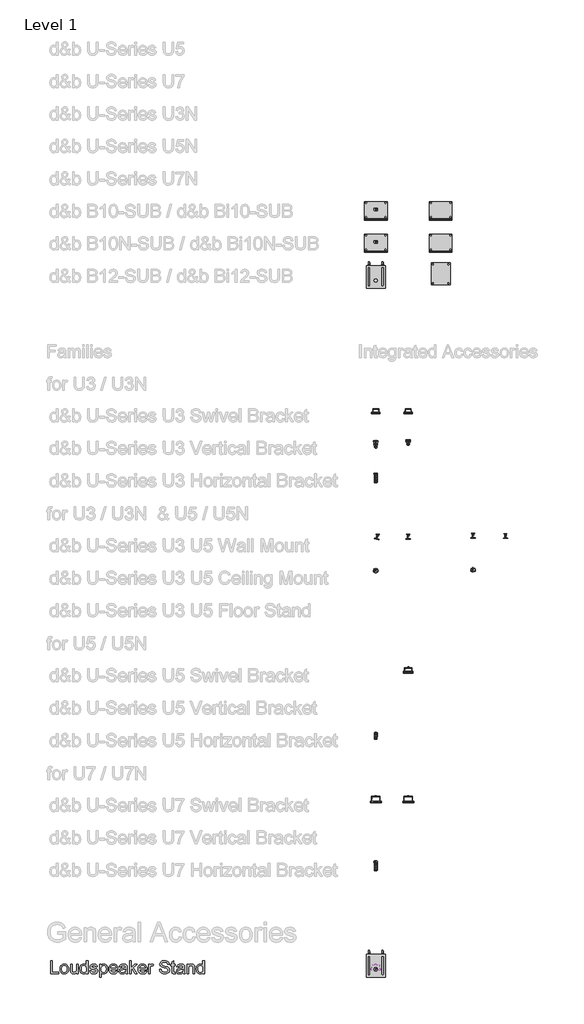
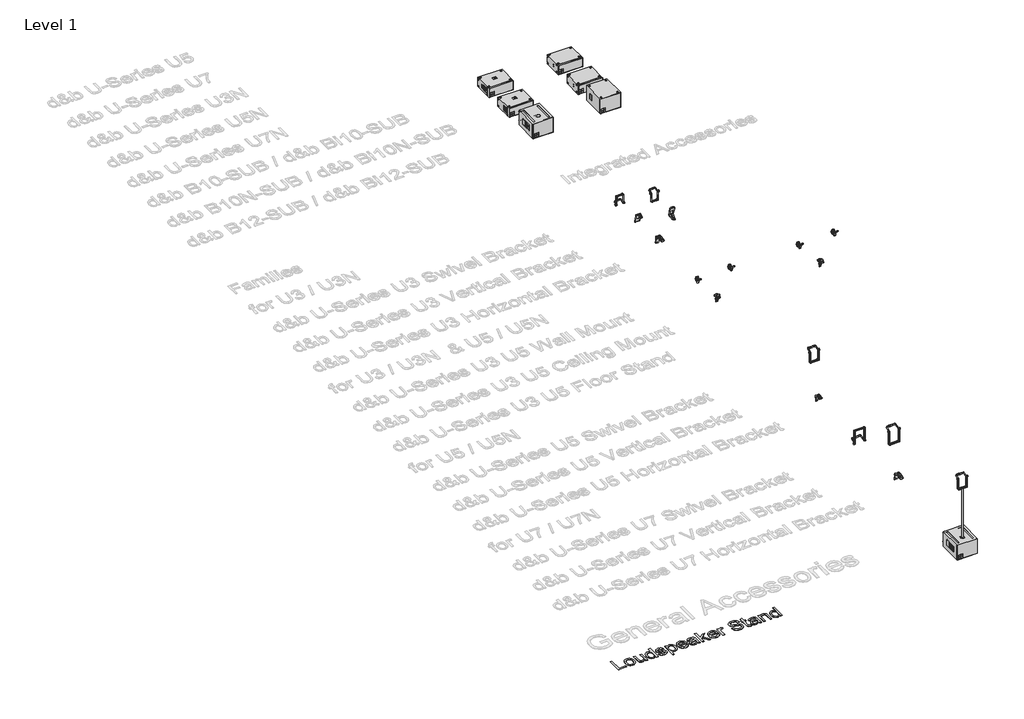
# One storey, part 1 of 29: 26 proxies.
"""IFC4 building model written with IfcOpenShell, lengths in millimetres."""

from ifc_helpers import new_model, si_unit, origin, origin_with_axes, place, context, project, spatial, polyline, outline, extrude, transform, mapped, element, save
from components import communication_devices_6d1422ba, communication_devices_ca37ca75, communication_devices_d0d5bee1, communication_devices_85ac5e9e, communication_devices_4919dec1, communication_devices_57c54264, communication_devices_0d8d8cf8, communication_devices_1533c05a, communication_devices_1f7fb13f, communication_devices_76a7964f, communication_devices_b4fd94f2, communication_devices_d837c37c, communication_devices_72063a0f, communication_devices_f46f4e43, communication_devices_39ca2ad1, communication_devices_53e6d59a, b10_sub_546336d0, b10_sub_703a699e, b10n_sub_55d3283e, b10n_sub_f161659a, b12_sub_ed2cee65, b12_sub_e7cbb8c9, b12_sub_46f5f9e7, bi10_sub_41919346, bi10n_sub_a82419cd, bi10n_sub_36906f2f, bi12_sub_8aa10a98

model = new_model("IFC4")

# Units and contexts
model_context = context("Model", 3, world=origin())
ifc_project = project(units=[si_unit("LENGTHUNIT", "METRE", prefix="MILLI")], contexts=[model_context])

# Site, building, storey
site = spatial("IfcSite", under=ifc_project)
building = spatial("IfcBuilding", under=site)
storey = spatial("IfcBuildingStorey", under=building, Name="Level 1", Elevation=0.0)

# Proxies
placement = place(None, origin())
communication_devices_shape = communication_devices_6d1422ba(model_context)
element("IfcBuildingElementProxy", 1, Name="d&b U-Series U3 Vertical Bracket : d&b U-Series U3 Vertical Bracket", ObjectType="d&b U-Series U3 Vertical Bracket : d&b U-Series U3 Vertical Bracket", at=placement, inside=storey, context=model_context, shape_type="MappedRepresentation", body=[
    mapped(communication_devices_shape, transform((-10941.6434304, 3446.1969765, 250.0), x_axis=(1.0, 0.0, 0.0), y_axis=(0.0, 1.0, 0.0), z_axis=(0.0, 0.0, 1.0))),
])
communication_devices_2_shape = communication_devices_ca37ca75(model_context)
element("IfcBuildingElementProxy", 2, Name="Loudspeaker Stand : Loudspeaker Stand", ObjectType="Loudspeaker Stand : Loudspeaker Stand", at=placement, inside=storey, context=model_context, shape_type="MappedRepresentation", body=[
    mapped(communication_devices_2_shape, transform((-10941.6434304, -12696.0762085, 455.0), x_axis=(1.0, 0.0, 0.0), y_axis=(0.0, 1.0, 0.0), z_axis=(0.0, 0.0, 1.0))),
])
communication_devices_3_shape = communication_devices_d0d5bee1(model_context)
element("IfcBuildingElementProxy", 3, Name="d&b U-Series U3 Vertical Bracket : d&b U-Series U3 Vertical Bracket", ObjectType="d&b U-Series U3 Vertical Bracket : d&b U-Series U3 Vertical Bracket", at=placement, inside=storey, context=model_context, shape_type="MappedRepresentation", body=[
    mapped(communication_devices_3_shape, transform((-9941.6434304, 3446.1969765, 250.0), x_axis=(1.0, 0.0, 0.0), y_axis=(0.0, 1.0, 0.0), z_axis=(0.0, 0.0, 1.0))),
])
communication_devices_4_shape = communication_devices_85ac5e9e(model_context)
element("IfcBuildingElementProxy", 4, Name="d&b U-Series U7 Horizonzal Bracket : d&b U-Series U7 Horizontal Bracket", ObjectType="d&b U-Series U7 Horizonzal Bracket : d&b U-Series U7 Horizontal Bracket", at=placement, inside=storey, context=model_context, shape_type="MappedRepresentation", body=[
    mapped(communication_devices_4_shape, transform((-10941.6434304, -9565.74754, 248.0447678), x_axis=(0.0, 0.25881904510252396, -0.9659258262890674), y_axis=(0.0, -0.9659258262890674, -0.25881904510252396), z_axis=(-1.0, 0.0, 0.0))),
])
communication_devices_5_shape = communication_devices_4919dec1(model_context)
communication_devices_6_shape = communication_devices_57c54264(model_context)
element("IfcBuildingElementProxy", 5, Name="d&b U-Series U3 U5 Wall Mount : d&b U-Series U3 U5 Wall Mount", ObjectType="d&b U-Series U3 U5 Wall Mount : d&b U-Series U3 U5 Wall Mount", at=placement, inside=storey, context=model_context, shape_type="MappedRepresentation", body=[
    mapped(communication_devices_5_shape, transform((-7941.6432859, 586.9561395, 275.6129964), x_axis=(1.0, 0.0, 0.0), y_axis=(0.0, 0.17364817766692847, -0.9848077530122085), z_axis=(0.0, 0.9848077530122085, 0.17364817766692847))),
    mapped(communication_devices_6_shape, transform((-7941.6432859, 586.9561395, 275.6129964), x_axis=(1.0, 0.0, 0.0), y_axis=(0.0, 0.17364817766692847, -0.9848077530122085), z_axis=(0.0, 0.9848077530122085, 0.17364817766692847))),
])
element("IfcBuildingElementProxy", 6, Name="d&b U-Series U3 U5 Wall Mount : d&b U-Series U3 U5 Wall Mount", ObjectType="d&b U-Series U3 U5 Wall Mount : d&b U-Series U3 U5 Wall Mount", at=placement, inside=storey, context=model_context, shape_type="MappedRepresentation", body=[
    mapped(communication_devices_5_shape, transform((-9941.6433189, 555.0427279, 312.6336851), x_axis=(1.0, 0.0, 0.0), y_axis=(0.0, 0.17364817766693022, -0.9848077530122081), z_axis=(0.0, 0.9848077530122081, 0.17364817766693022))),
    mapped(communication_devices_6_shape, transform((-9941.6433189, 555.0427279, 312.6336851), x_axis=(1.0, 0.0, 0.0), y_axis=(0.0, 0.17364817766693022, -0.9848077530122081), z_axis=(0.0, 0.9848077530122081, 0.17364817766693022))),
])
element("IfcBuildingElementProxy", 7, Name="d&b U-Series U3 U5 Wall Mount : d&b U-Series U3 U5 Wall Mount", ObjectType="d&b U-Series U3 U5 Wall Mount : d&b U-Series U3 U5 Wall Mount", at=placement, inside=storey, context=model_context, shape_type="MappedRepresentation", body=[
    mapped(communication_devices_5_shape, transform((-6941.6433189, 579.6628716, 316.9751741), x_axis=(1.0, 0.0, 0.0), y_axis=(0.0, 0.1736481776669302, -0.9848077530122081), z_axis=(0.0, 0.9848077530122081, 0.1736481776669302))),
    mapped(communication_devices_6_shape, transform((-6941.6433189, 579.6628716, 316.9751741), x_axis=(1.0, 0.0, 0.0), y_axis=(0.0, 0.1736481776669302, -0.9848077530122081), z_axis=(0.0, 0.9848077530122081, 0.1736481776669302))),
])
communication_devices_7_shape = communication_devices_0d8d8cf8(model_context)
element("IfcBuildingElementProxy", 8, Name="d&b U-Series U3 Horizonzal Bracket : d&b U-Series U3 Horizontal Bracket", ObjectType="d&b U-Series U3 Horizonzal Bracket : d&b U-Series U3 Horizontal Bracket", at=placement, inside=storey, context=model_context, shape_type="MappedRepresentation", body=[
    mapped(communication_devices_7_shape, transform((-10941.6434304, 2445.1371749, 250.6453621), x_axis=(0.0, 0.17364817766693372, -0.9848077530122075), y_axis=(0.0, -0.9848077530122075, -0.17364817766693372), z_axis=(-1.0, 0.0, 0.0))),
])
communication_devices_8_shape = communication_devices_1533c05a(model_context)
element("IfcBuildingElementProxy", 9, Name="d&b U-Series U5 Swivel Bracket : d&b U-Series U5 Swivel Bracket", ObjectType="d&b U-Series U5 Swivel Bracket : d&b U-Series U5 Swivel Bracket", at=placement, inside=storey, context=model_context, shape_type="MappedRepresentation", body=[
    mapped(communication_devices_8_shape, transform((-9941.6434304, -3546.8030235, 250.0), x_axis=(1.0, 0.0, 0.0), y_axis=(0.0, 1.0, 0.0), z_axis=(0.0, 0.0, 1.0))),
])
element("IfcBuildingElementProxy", 10, Name="d&b U-Series U5 Swivel Bracket : d&b U-Series U5 Swivel Bracket", ObjectType="d&b U-Series U5 Swivel Bracket : d&b U-Series U5 Swivel Bracket", at=placement, inside=storey, context=model_context, shape_type="MappedRepresentation", body=[
    mapped(communication_devices_8_shape, transform((-10941.6434304, -12696.0762085, 2274.0), x_axis=(1.0, 0.0, 0.0), y_axis=(0.0, 1.0, 0.0), z_axis=(0.0, 0.0, 1.0))),
])
communication_devices_9_shape = communication_devices_1f7fb13f(model_context)
communication_devices_10_shape = communication_devices_76a7964f(model_context)
element("IfcBuildingElementProxy", 11, Name="d&b U-Series U7 Swivel Bracket : d&b U-Series U7 Swivel Bracket", ObjectType="d&b U-Series U7 Swivel Bracket : d&b U-Series U7 Swivel Bracket", at=placement, inside=storey, context=model_context, shape_type="MappedRepresentation", body=[
    mapped(communication_devices_9_shape, transform((-10941.6434304, -7546.8030235, 250.0), x_axis=(1.0, 0.0, 0.0), y_axis=(0.0, 1.0, 0.0), z_axis=(0.0, 0.0, 1.0))),
    mapped(communication_devices_10_shape, transform((-10941.6434304, -7546.8030235, 250.0), x_axis=(1.0, 0.0, 0.0), y_axis=(0.0, 1.0, 0.0), z_axis=(0.0, 0.0, 1.0))),
])
communication_devices_11_shape = communication_devices_b4fd94f2(model_context)
element("IfcBuildingElementProxy", 12, Name="d&b U-Series U7 Swivel Bracket : d&b U-Series U7 Swivel Bracket", ObjectType="d&b U-Series U7 Swivel Bracket : d&b U-Series U7 Swivel Bracket", at=placement, inside=storey, context=model_context, shape_type="MappedRepresentation", body=[
    mapped(communication_devices_11_shape, transform((-9941.6434304, -7546.8030235, 250.0), x_axis=(1.0, 0.0, 0.0), y_axis=(0.0, 1.0, 0.0), z_axis=(0.0, 0.0, 1.0))),
])
communication_devices_12_shape = communication_devices_d837c37c(model_context)
element("IfcBuildingElementProxy", 13, Name="d&b U-Series U3 U5 Wall Mount : d&b U-Series U3 U5 Wall Mount", ObjectType="d&b U-Series U3 U5 Wall Mount : d&b U-Series U3 U5 Wall Mount", at=placement, inside=storey, context=model_context, shape_type="MappedRepresentation", body=[
    mapped(communication_devices_12_shape, transform((-10909.9380973, 558.2252538, 270.5470793), x_axis=(0.9659258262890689, -0.25488700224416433, -0.044943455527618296), y_axis=(0.0, 0.17364817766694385, -0.9848077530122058), z_axis=(0.25881904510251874, 0.9512512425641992, 0.1677312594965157))),
    mapped(communication_devices_6_shape, transform((-10909.9380973, 558.2252538, 270.5470793), x_axis=(0.9659258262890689, -0.25488700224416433, -0.044943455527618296), y_axis=(0.0, 0.17364817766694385, -0.9848077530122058), z_axis=(0.25881904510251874, 0.9512512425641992, 0.1677312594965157))),
])
communication_devices_13_shape = communication_devices_72063a0f(model_context)
element("IfcBuildingElementProxy", 14, Name="d&b U-Series U3 Swivel Bracket : d&b U-Series U3 Swivel Bracket", ObjectType="d&b U-Series U3 Swivel Bracket : d&b U-Series U3 Swivel Bracket", at=placement, inside=storey, context=model_context, shape_type="MappedRepresentation", body=[
    mapped(communication_devices_13_shape, transform((-9941.6434304, 4444.1969765, 250.0), x_axis=(1.0, 0.0, 0.0), y_axis=(0.0, 1.0, 0.0), z_axis=(0.0, 0.0, 1.0))),
])
communication_devices_14_shape = communication_devices_f46f4e43(model_context)
element("IfcBuildingElementProxy", 15, Name="d&b U-Series U3 Swivel Bracket : d&b U-Series U3 Swivel Bracket", ObjectType="d&b U-Series U3 Swivel Bracket : d&b U-Series U3 Swivel Bracket", at=placement, inside=storey, context=model_context, shape_type="MappedRepresentation", body=[
    mapped(communication_devices_14_shape, transform((-10941.6434304, 4444.1969765, 250.0), x_axis=(1.0, 0.0, 0.0), y_axis=(0.0, 1.0, 0.0), z_axis=(0.0, 0.0, 1.0))),
])
communication_devices_15_shape = communication_devices_39ca2ad1(model_context)
element("IfcBuildingElementProxy", 16, Name="d&b U-Series U3 U5 Ceiling Mount : d&b U-Series U3 U5 Ceiling Mount", ObjectType="d&b U-Series U3 U5 Ceiling Mount : d&b U-Series U3 U5 Ceiling Mount", at=placement, inside=storey, context=model_context, shape_type="MappedRepresentation", body=[
    mapped(communication_devices_15_shape, transform((-7941.6433189, -426.6993266, 328.7445543), x_axis=(1.0, 0.0, 0.0), y_axis=(0.0, 0.2588190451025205, -0.9659258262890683), z_axis=(0.0, 0.9659258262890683, 0.2588190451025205))),
])
element("IfcBuildingElementProxy", 17, Name="d&b U-Series U3 U5 Ceiling Mount : d&b U-Series U3 U5 Ceiling Mount", ObjectType="d&b U-Series U3 U5 Ceiling Mount : d&b U-Series U3 U5 Ceiling Mount", at=placement, inside=storey, context=model_context, shape_type="MappedRepresentation", body=[
    mapped(communication_devices_15_shape, transform((-10941.6433189, -450.8474722, 322.2740782), x_axis=(1.0, 0.0, 0.0), y_axis=(0.0, 0.2588190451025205, -0.9659258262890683), z_axis=(0.0, 0.9659258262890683, 0.2588190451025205))),
])
communication_devices_16_shape = communication_devices_53e6d59a(model_context)
element("IfcBuildingElementProxy", 18, Name="d&b U-Series U5 Horizonzal Bracket : d&b U-Series U5 Horizontal Bracket", ObjectType="d&b U-Series U5 Horizonzal Bracket : d&b U-Series U5 Horizontal Bracket", at=placement, inside=storey, context=model_context, shape_type="MappedRepresentation", body=[
    mapped(communication_devices_16_shape, transform((-10941.6434304, -5530.2426312, 254.9865665), x_axis=(0.0, 0.1736481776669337, -0.9848077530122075), y_axis=(0.0, -0.9848077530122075, -0.1736481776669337), z_axis=(-1.0, 0.0, 0.0))),
])
element("IfcBuildingElementProxy", 19, Name="400mm Arial", ObjectType="400mm Arial", at=placement, inside=storey, context=model_context, shape_type="SweptSolid", body=[
    extrude(outline(polyline([(-20964.210541, -12835.6363385), (-20964.210541, -12433.8110979), (-20913.9823859, -12433.8110979), (-20913.9823859, -12785.4081834), (-20713.0697656, -12785.4081834), (-20713.0697656, -12835.6363385), (-20964.210541, -12835.6363385)])), origin_with_axes(), (0.0, 0.0, 1.0), 5.0),
    extrude(outline(polyline([(-20675.3986493, -12688.091133), (-20672.6824539, -12649.874325), (-20664.5338677, -12616.9427551), (-20650.9528907, -12589.2964232), (-20631.9395229, -12566.9353292), (-20612.7973964, -12552.6431137), (-20591.6687072, -12542.4343884), (-20568.5534552, -12536.3091531), (-20543.4516403, -12534.2674081), (-20515.7409291, -12536.7536772), (-20490.6850995, -12544.2124847), (-20468.2841517, -12556.6438304), (-20448.5380856, -12574.0477145), (-20432.4217885, -12595.8355256), (-20420.9101478, -12621.4186527), (-20414.0031633, -12650.7970957), (-20411.7008351, -12683.9708546), (-20415.7720626, -12734.7140445), (-20427.9857448, -12773.341654), (-20447.9862626, -12802.2694415), (-20475.4179967, -12823.9131656), (-20508.0000787, -12837.4144348), (-20543.4516403, -12841.9148579), (-20571.5670218, -12839.4377858), (-20596.8558433, -12832.0065695), (-20619.3181048, -12819.621209), (-20638.9538063, -12802.2817043), (-20654.8984251, -12780.282361), (-20666.2874385, -12753.9174846), (-20673.1208466, -12723.1870753), (-20675.3986493, -12688.091133)]), holes=[polyline([(-20625.1704942, -12687.9930311), (-20623.7173603, -12712.3560162), (-20619.3579587, -12733.450983), (-20612.0922893, -12751.2779313), (-20601.9203521, -12765.8368613), (-20589.5472543, -12777.146167), (-20575.6781031, -12785.2242424), (-20560.3128985, -12790.0710877), (-20543.4516403, -12791.6867028), (-20526.6762214, -12790.0618907), (-20511.3723304, -12785.1874542), (-20497.5399673, -12777.0633935), (-20485.1791323, -12765.6897085), (-20475.0071951, -12750.9866914), (-20467.7415257, -12732.8746345), (-20463.3821241, -12711.3535378), (-20461.9289902, -12686.4234013), (-20463.3913211, -12662.8329683), (-20467.7783139, -12642.2898246), (-20475.0899686, -12624.79397), (-20485.3262851, -12610.3454047), (-20497.7331054, -12599.036099), (-20511.5562714, -12590.9580235), (-20526.795783, -12586.1111782), (-20543.4516403, -12584.4955631), (-20560.3128985, -12586.1050469), (-20575.6781031, -12590.9334981), (-20589.5472543, -12598.9809167), (-20601.9203521, -12610.2473028), (-20612.0922893, -12624.7633132), (-20619.3579587, -12642.5596047), (-20623.7173603, -12663.6361773), (-20625.1704942, -12687.9930311)])]), origin_with_axes(), (0.0, 0.0, 1.0), 5.0),
    extrude(outline(polyline([(-20166.8385792, -12835.6363385), (-20166.8385792, -12784.9176741), (-20185.0119497, -12809.853942), (-20206.1774272, -12827.6655619), (-20230.3350115, -12838.3525339), (-20257.4847028, -12841.9148579), (-20281.9488554, -12839.4132603), (-20304.7207509, -12831.9084676), (-20323.8260892, -12820.6267531), (-20337.2905702, -12806.7943901), (-20346.3527301, -12789.9944456), (-20352.2511047, -12769.8099868), (-20355.1941607, -12723.1134989), (-20355.1941607, -12540.5459274), (-20304.9660056, -12540.5459274), (-20304.9660056, -12699.4709494), (-20301.9248478, -12750.6801231), (-20294.6039961, -12767.7621104), (-20282.05922, -12780.7483448), (-20265.1243855, -12788.9521133), (-20244.6333584, -12791.6867028), (-20222.9651089, -12788.8907997), (-20202.6948109, -12780.5030902), (-20185.9807056, -12767.2961265), (-20174.981034, -12750.042461), (-20168.8741929, -12726.4121741), (-20166.8385792, -12694.0753468), (-20166.8385792, -12540.5459274), (-20116.6104241, -12540.5459274), (-20116.6104241, -12835.6363385), (-20166.8385792, -12835.6363385)])), origin_with_axes(), (0.0, 0.0, 1.0), 5.0),
    extrude(outline(polyline([(-19865.4696487, -12835.6363385), (-19865.4696487, -12788.2531375), (-19880.4976282, -12811.7301402), (-19898.7016556, -12828.4994278), (-19920.0817309, -12838.5610004), (-19944.6378541, -12841.9148579), (-19977.1095715, -12837.0588156), (-20006.8344367, -12822.4906885), (-20031.9975652, -12799.2282837), (-20050.7840724, -12768.2894079), (-20062.4827199, -12730.9248599), (-20066.382269, -12688.3854386), (-20062.7892882, -12646.3733147), (-20052.0103457, -12608.4324183), (-20034.0577044, -12576.7209903), (-20008.9436268, -12553.3972718), (-19978.5688368, -12539.049874), (-19944.8340578, -12534.2674081), (-19920.2595405, -12537.6887106), (-19898.5299773, -12547.9526183), (-19880.1113521, -12563.6857049), (-19865.4696487, -12583.5145445), (-19865.4696487, -12433.8110979), (-19815.2414936, -12433.8110979), (-19815.2414936, -12835.6363385), (-19865.4696487, -12835.6363385)]), holes=[polyline([(-20016.1541139, -12688.1892348), (-20014.7377682, -12712.5460886), (-20010.4887312, -12733.6226612), (-20003.4070028, -12751.4189528), (-19993.492583, -12765.9349632), (-19968.7954384, -12785.2487679), (-19954.9201558, -12790.0772191), (-19940.0270664, -12791.6867028), (-19925.0634662, -12790.1507955), (-19911.2709571, -12785.5430735), (-19887.1992119, -12767.1121855), (-19877.692528, -12753.2031804), (-19870.9020395, -12736.0506824), (-19865.4696487, -12692.0152076), (-19871.0001414, -12643.8717172), (-19877.9132572, -12625.336596), (-19887.5916193, -12610.4925575), (-19899.2933325, -12599.1188724), (-19912.2765012, -12590.9948117), (-19926.5411256, -12586.1203753), (-19942.0872056, -12584.4955631), (-19957.2746006, -12586.0559959), (-19971.1498832, -12590.7372943), (-19983.7130533, -12598.5394583), (-19994.964111, -12609.4624879), (-20004.2347373, -12623.7455063), (-20010.8566132, -12641.627637), (-20016.1541139, -12688.1892348)])]), origin_with_axes(), (0.0, 0.0, 1.0), 5.0),
    extrude(outline(polyline([(-19758.7348192, -12747.7370671), (-19708.5066641, -12741.4585477), (-19700.5849385, -12762.9428563), (-19685.256522, -12778.7372566), (-19662.4233128, -12788.4493413), (-19631.9872091, -12791.6867028), (-19601.9189874, -12788.7191214), (-19580.7780354, -12779.8163771), (-19568.2700475, -12766.9159818), (-19564.1007183, -12751.9554473), (-19568.294573, -12739.1531539), (-19580.8761372, -12729.3920183), (-19632.5758203, -12715.069146), (-19708.2123585, -12690.4946287), (-19727.354485, -12678.1460564), (-19741.2236362, -12661.7998331), (-19749.6481339, -12642.498291), (-19752.4562998, -12621.2837627), (-19750.1999569, -12601.8228051), (-19743.4309282, -12583.857901), (-19732.7623503, -12568.1002889), (-19718.80736, -12555.2612073), (-19686.8752028, -12540.3987746), (-19665.9917682, -12535.8002497), (-19643.6613311, -12534.2674081), (-19610.9688844, -12536.7322174), (-19582.5438689, -12544.1266455), (-19559.6861343, -12555.7271911), (-19543.6955303, -12570.8103529), (-19533.1005288, -12590.4920397), (-19526.4296019, -12615.8881601), (-19576.657757, -12622.1666794), (-19582.9975901, -12606.3600164), (-19595.5423661, -12594.4529025), (-19614.4147125, -12586.984898), (-19639.7372565, -12584.4955631), (-19668.5792049, -12586.8745334), (-19687.8071705, -12594.0114441), (-19698.6229012, -12604.3121399), (-19702.2281447, -12616.1824657), (-19696.2439309, -12630.7996436), (-19677.5064746, -12641.8851544), (-19634.243552, -12652.5782577), (-19560.5200002, -12676.2208073), (-19541.0467799, -12687.5270473), (-19526.2824491, -12703.0026165), (-19516.9750347, -12722.696566), (-19513.8725632, -12746.6579466), (-19517.5145949, -12771.4286676), (-19528.4406902, -12794.7278606), (-19546.233916, -12814.7283785), (-19570.4773395, -12829.6030738), (-19599.7607463, -12838.8369119), (-19632.6739222, -12841.9148579), (-19659.7071174, -12840.4310672), (-19683.3190102, -12835.979695), (-19703.5096003, -12828.5607415), (-19720.2788879, -12818.1742065), (-19733.9763609, -12804.869141), (-19744.9515071, -12788.6945959), (-19753.2043265, -12769.6505713), (-19758.7348192, -12747.7370671)])), origin_with_axes(), (0.0, 0.0, 1.0), 5.0),
    extrude(outline(polyline([(-19457.3658887, -12948.6496874), (-19457.3658887, -12540.5459274), (-19407.1377336, -12540.5459274), (-19407.1377336, -12589.7930639), (-19390.7547221, -12565.5005895), (-19372.4096733, -12548.148822), (-19351.0234666, -12537.7377615), (-19325.5169816, -12534.2674081), (-19291.5492108, -12539.1234504), (-19261.848871, -12553.6915774), (-19237.6667612, -12577.0888723), (-19220.2536801, -12608.4324183), (-19209.732255, -12645.441347), (-19206.2251133, -12685.8347901), (-19210.1859762, -12728.7911444), (-19222.0685646, -12767.2102874), (-19241.4927339, -12799.1424446), (-19268.0783395, -12822.6378413), (-19299.0417407, -12837.0956038), (-19331.5992973, -12841.9148579), (-19354.6900239, -12838.6897591), (-19375.3036783, -12829.0144626), (-19392.9497514, -12814.4095474), (-19407.1377336, -12796.3955924), (-19407.1377336, -12948.6496874), (-19457.3658887, -12948.6496874)]), holes=[polyline([(-19407.1377336, -12690.4455777), (-19401.7053428, -12735.474334), (-19394.9148544, -12752.9119405), (-19385.4081705, -12766.9650327), (-19361.3609507, -12785.5062853), (-19347.5990984, -12790.1415984), (-19332.6784178, -12791.6867028), (-19317.5431394, -12790.0864161), (-19303.5299011, -12785.2855561), (-19290.6387028, -12777.2841227), (-19278.8695447, -12766.082116), (-19269.0624238, -12751.5201203), (-19262.0573375, -12733.4387202), (-19257.8542857, -12711.8379158), (-19256.4532684, -12686.7177069), (-19261.9224474, -12641.9342053), (-19268.7589212, -12624.3617087), (-19278.3299844, -12610.0020481), (-19302.340416, -12590.8721844), (-19315.9459184, -12586.0897184), (-19330.6182786, -12584.4955631), (-19345.2446536, -12586.190886), (-19359.0065059, -12591.2768546), (-19383.9366425, -12611.6207289), (-19394.0871199, -12626.7192191), (-19401.3374609, -12644.889524), (-19405.6876654, -12666.1316435), (-19407.1377336, -12690.4455777)])]), origin_with_axes(), (0.0, 0.0, 1.0), 5.0),
    extrude(outline(polyline([(-18943.1159104, -12747.7370671), (-18893.868774, -12754.0155865), (-18901.4195519, -12773.7401928), (-18911.6129489, -12791.1226171), (-18924.4489648, -12806.1628593), (-18939.9275998, -12818.8609195), (-18957.8894382, -12828.9470176), (-18978.1750645, -12836.1513733), (-19025.717681, -12841.9148579), (-19056.8834174, -12839.4285887), (-19084.6523767, -12831.9697813), (-19109.0245589, -12819.5384355), (-19129.9999639, -12802.1345515), (-19146.8673534, -12780.2425071), (-19158.9154888, -12754.3466803), (-19166.14437, -12724.4470712), (-19168.553997, -12690.5436796), (-19166.1198445, -12655.4906568), (-19158.8173869, -12624.5947006), (-19146.6466242, -12597.8558109), (-19129.6075565, -12575.2739878), (-19108.6873337, -12557.3336092), (-19084.8731059, -12544.519053), (-19058.164873, -12536.8303193), (-19028.5626351, -12534.2674081), (-18999.9138248, -12536.8241879), (-18974.0057353, -12544.4945275), (-18950.8383666, -12557.2784269), (-18930.4117188, -12575.1758859), (-18913.7374674, -12597.7086581), (-18901.8272878, -12624.3984969), (-18894.68118, -12655.2454022), (-18892.2991441, -12690.249374), (-18892.5934497, -12703.7874314), (-19118.325842, -12703.7874314), (-19115.4165085, -12723.8308688), (-19109.6315641, -12741.3849713), (-19100.9710088, -12756.449739), (-19089.4348426, -12769.0251719), (-19075.6607276, -12778.9395917), (-19060.2863259, -12786.0213201), (-19024.7366624, -12791.6867028), (-18998.0039041, -12789.0624779), (-18975.489526, -12781.1898032), (-18957.1935281, -12767.5781694), (-18943.1159104, -12747.7370671)]), holes=[polyline([(-19118.325842, -12653.5592764), (-18942.5272992, -12653.5592764), (-18949.3208534, -12627.0227218), (-18962.6381816, -12608.0400108), (-18976.3356546, -12597.739315), (-18991.9215884, -12590.3816751), (-19009.3959832, -12585.9670911), (-19028.7588389, -12584.4955631), (-19062.6162452, -12589.1921899), (-19090.612065, -12603.2820704), (-19110.0730225, -12625.2446255), (-19118.325842, -12653.5592764)])]), origin_with_axes(), (0.0, 0.0, 1.0), 5.0),
    extrude(outline(polyline([(-18653.7154075, -12797.9652222), (-18677.7135763, -12818.5420885), (-18702.4229837, -12832.0065695), (-18728.4077153, -12839.4377858), (-18756.2318568, -12841.9148579), (-18778.5960165, -12840.4249358), (-18798.2071925, -12835.9551696), (-18815.0653849, -12828.5055592), (-18829.1705938, -12818.0761046), (-18840.3082212, -12805.3289935), (-18848.2636693, -12790.9264134), (-18853.0369382, -12774.8683643), (-18854.6280278, -12757.1548462), (-18852.2245321, -12736.3327253), (-18845.014045, -12717.4235907), (-18833.891746, -12701.2367829), (-18819.7528147, -12688.5816423), (-18803.1368112, -12679.0167104), (-18784.5832959, -12672.1005289), (-18741.1241696, -12664.5466853), (-18689.767843, -12656.6004342), (-18654.0097131, -12647.280757), (-18653.7154075, -12636.0971443), (-18657.1734983, -12613.6808681), (-18667.5477705, -12599.0146392), (-18690.7488617, -12588.1253322), (-18723.0734263, -12584.4955631), (-18752.9944953, -12586.9113216), (-18773.8901926, -12594.1585969), (-18788.1394886, -12607.5617642), (-18798.1213534, -12628.4451988), (-18848.3495084, -12622.1666794), (-18839.6307052, -12594.6981571), (-18826.6199453, -12573.1157468), (-18808.1032182, -12556.6101079), (-18782.8665133, -12544.3719002), (-18752.0012139, -12536.7935311), (-18716.5987032, -12534.2674081), (-18682.6431951, -12536.4992255), (-18655.7264958, -12543.1946778), (-18635.4316724, -12553.2623817), (-18621.3417919, -12565.610954), (-18611.9975893, -12580.8780568), (-18605.9397991, -12599.7013523), (-18603.4872524, -12643.650988), (-18603.4872524, -12706.1418762), (-18600.9366039, -12793.4034855), (-18590.9302137, -12835.6363385), (-18641.1583688, -12835.6363385), (-18649.2027217, -12818.1742065), (-18653.7154075, -12797.9652222)]), holes=[polyline([(-18653.7154075, -12697.5089121), (-18687.4624492, -12705.8720961), (-18734.7475483, -12712.9109049), (-18777.96142, -12721.0533597), (-18789.2063463, -12726.6206406), (-18797.5327422, -12734.2971116), (-18802.6830901, -12743.4941615), (-18804.3998727, -12753.6231791), (-18800.6597391, -12768.5591881), (-18789.4393383, -12780.7973958), (-18770.9839249, -12788.9643761), (-18745.5387535, -12791.6867028), (-18718.5607405, -12788.6823332), (-18694.7219873, -12779.6692243), (-18675.3959198, -12766.3886843), (-18661.9559642, -12750.5820212), (-18655.9962759, -12734.2971116), (-18654.0097131, -12711.7336825), (-18653.7154075, -12697.5089121)])]), origin_with_axes(), (0.0, 0.0, 1.0), 5.0),
    extrude(outline(polyline([(-18534.4235392, -12835.6363385), (-18534.4235392, -12433.8110979), (-18484.1953841, -12433.8110979), (-18484.1953841, -12649.7333036), (-18371.5744427, -12540.5459274), (-18302.118322, -12540.5459274), (-18416.2107914, -12651.1067297), (-18295.8398026, -12835.6363385), (-18354.5047181, -12835.6363385), (-18452.214176, -12686.0309938), (-18484.1953841, -12717.1292851), (-18484.1953841, -12835.6363385), (-18534.4235392, -12835.6363385)])), origin_with_axes(), (0.0, 0.0, 1.0), 5.0),
    extrude(outline(polyline([(-18045.2876384, -12747.7370671), (-17996.040502, -12754.0155865), (-18003.59128, -12773.7401928), (-18013.7846769, -12791.1226171), (-18026.6206929, -12806.1628593), (-18042.0993278, -12818.8609195), (-18060.0611662, -12828.9470176), (-18080.3467926, -12836.1513733), (-18127.8894091, -12841.9148579), (-18159.0551454, -12839.4285887), (-18186.8241047, -12831.9697813), (-18211.1962869, -12819.5384355), (-18232.171692, -12802.1345515), (-18249.0390815, -12780.2425071), (-18261.0872168, -12754.3466803), (-18268.316098, -12724.4470712), (-18270.7257251, -12690.5436796), (-18268.2915725, -12655.4906568), (-18260.9891149, -12624.5947006), (-18248.8183523, -12597.8558109), (-18231.7792845, -12575.2739878), (-18210.8590617, -12557.3336092), (-18187.0448339, -12544.519053), (-18160.3366011, -12536.8303193), (-18130.7343632, -12534.2674081), (-18102.0855528, -12536.8241879), (-18076.1774633, -12544.4945275), (-18053.0100946, -12557.2784269), (-18032.5834469, -12575.1758859), (-18015.9091954, -12597.7086581), (-18003.9990158, -12624.3984969), (-17996.8529081, -12655.2454022), (-17994.4708722, -12690.249374), (-17994.7651778, -12703.7874314), (-18220.49757, -12703.7874314), (-18217.5882366, -12723.8308688), (-18211.8032922, -12741.3849713), (-18203.1427369, -12756.449739), (-18191.6065706, -12769.0251719), (-18177.8324556, -12778.9395917), (-18162.4580539, -12786.0213201), (-18126.9083904, -12791.6867028), (-18100.1756321, -12789.0624779), (-18077.661254, -12781.1898032), (-18059.3652561, -12767.5781694), (-18045.2876384, -12747.7370671)]), holes=[polyline([(-18220.49757, -12653.5592764), (-18044.6990272, -12653.5592764), (-18051.4925814, -12627.0227218), (-18064.8099096, -12608.0400108), (-18078.5073826, -12597.739315), (-18094.0933165, -12590.3816751), (-18111.5677112, -12585.9670911), (-18130.9305669, -12584.4955631), (-18164.7879732, -12589.1921899), (-18192.783793, -12603.2820704), (-18212.2447506, -12625.2446255), (-18220.49757, -12653.5592764)])]), origin_with_axes(), (0.0, 0.0, 1.0), 5.0),
    extrude(outline(polyline([(-17944.2427171, -12835.6363385), (-17944.2427171, -12540.5459274), (-17900.2930814, -12540.5459274), (-17900.2930814, -12584.2012575), (-17884.0572227, -12558.8909763), (-17869.0966882, -12543.9794927), (-17854.0871028, -12536.6954292), (-17837.7040913, -12534.2674081), (-17812.6881156, -12538.1424317), (-17787.2797325, -12549.7675028), (-17804.0551515, -12594.796259), (-17821.7134872, -12587.0707371), (-17839.371823, -12584.4955631), (-17854.3691457, -12586.9726352), (-17867.772313, -12594.4038515), (-17878.6003064, -12606.2251263), (-17885.8721072, -12621.8723738), (-17891.9789483, -12649.9295073), (-17894.014562, -12680.5372893), (-17894.014562, -12835.6363385), (-17944.2427171, -12835.6363385)])), origin_with_axes(), (0.0, 0.0, 1.0), 5.0),
    extrude(outline(polyline([(-17611.4811897, -12697.5089121), (-17561.2530346, -12697.5089121), (-17555.4895501, -12725.3821046), (-17545.0662269, -12747.7861181), (-17528.8058427, -12765.5670812), (-17505.5311751, -12779.5711224), (-17477.0816341, -12788.6578077), (-17445.2966298, -12791.6867028), (-17417.3130727, -12789.3935717), (-17392.8121318, -12782.5141784), (-17372.9587668, -12771.6248713), (-17358.9179373, -12757.301999), (-17350.567016, -12740.8576738), (-17347.7833756, -12723.6040082), (-17349.8680402, -12706.7918011), (-17356.1220341, -12692.2604623), (-17368.8262257, -12679.862839), (-17390.2614833, -12669.4517786), (-17463.3964239, -12650.2728639), (-17511.4050243, -12637.580935), (-17542.1231709, -12625.5021429), (-17567.1268838, -12608.6040966), (-17584.8465333, -12588.1253322), (-17595.4047465, -12564.5073081), (-17598.924151, -12538.1914827), (-17594.5708807, -12508.7731858), (-17581.5110698, -12481.3414517), (-17560.088075, -12458.0913096), (-17530.6452526, -12441.2177887), (-17495.3040556, -12430.9538811), (-17456.1859368, -12427.5325785), (-17413.805931, -12431.1132966), (-17376.7234259, -12441.8554509), (-17346.2627967, -12459.5383121), (-17323.7484186, -12483.9411511), (-17309.4991226, -12513.543389), (-17303.8337399, -12546.8244468), (-17354.061895, -12546.8244468), (-17363.2834703, -12516.854327), (-17371.6466543, -12504.996264), (-17382.5114359, -12495.2228656), (-17412.5551322, -12482.1262666), (-17454.2238995, -12477.7607336), (-17496.8736855, -12482.0772157), (-17513.1769892, -12487.4728183), (-17526.1325668, -12495.0266619), (-17543.0551386, -12514.0829493), (-17548.6959959, -12536.7199547), (-17544.6983449, -12556.0214967), (-17532.7053918, -12571.5461169), (-17504.3539527, -12585.4275309), (-17450.6922324, -12599.6032504), (-17395.3137294, -12613.0677314), (-17361.8119423, -12624.8154298), (-17333.1784604, -12643.0378513), (-17313.202468, -12665.5277039), (-17301.4670324, -12692.0397331), (-17297.5552205, -12722.328684), (-17302.0556436, -12753.2920853), (-17315.5569128, -12782.4160765), (-17337.5072052, -12807.4811031), (-17367.3546977, -12826.2676104), (-17403.2477177, -12838.003046), (-17443.3345925, -12841.9148579), (-17492.5449407, -12837.6964777), (-17533.0487483, -12825.041337), (-17565.3119993, -12803.9003851), (-17589.8006775, -12774.2245708), (-17605.5215014, -12738.0740334), (-17611.4811897, -12697.5089121)])), origin_with_axes(), (0.0, 0.0, 1.0), 5.0),
    extrude(outline(polyline([(-17121.7566777, -12793.746842), (-17115.4781584, -12837.1078665), (-17153.0511728, -12841.9148579), (-17177.1597062, -12839.8301933), (-17195.136873, -12833.5761993), (-17207.8410646, -12823.9376911), (-17216.1306722, -12811.6994834), (-17220.692409, -12790.6811587), (-17222.2129879, -12754.7022996), (-17222.2129879, -12590.7740825), (-17259.8841042, -12590.7740825), (-17259.8841042, -12540.5459274), (-17222.2129879, -12540.5459274), (-17222.2129879, -12468.8334639), (-17171.9848328, -12439.3048024), (-17171.9848328, -12540.5459274), (-17121.7566777, -12540.5459274), (-17121.7566777, -12590.7740825), (-17171.9848328, -12590.7740825), (-17171.9848328, -12753.2307716), (-17169.3360824, -12779.1296641), (-17160.7521692, -12788.3021885), (-17143.6333937, -12791.6867028), (-17121.7566777, -12793.746842)])), origin_with_axes(), (0.0, 0.0, 1.0), 5.0),
    extrude(outline(polyline([(-16883.1729411, -12797.9652222), (-16907.17111, -12818.5420885), (-16931.8805173, -12832.0065695), (-16957.8652489, -12839.4377858), (-16985.6893905, -12841.9148579), (-17008.0535501, -12840.4249358), (-17027.6647261, -12835.9551696), (-17044.5229185, -12828.5055592), (-17058.6281274, -12818.0761046), (-17069.7657548, -12805.3289935), (-17077.7212029, -12790.9264134), (-17082.4944718, -12774.8683643), (-17084.0855614, -12757.1548462), (-17081.6820657, -12736.3327253), (-17074.4715786, -12717.4235907), (-17063.3492796, -12701.2367829), (-17049.2103483, -12688.5816423), (-17032.5943448, -12679.0167104), (-17014.0408296, -12672.1005289), (-16970.5817032, -12664.5466853), (-16919.2253767, -12656.6004342), (-16883.4672467, -12647.280757), (-16883.1729411, -12636.0971443), (-16886.6310319, -12613.6808681), (-16897.0053042, -12599.0146392), (-16920.2063953, -12588.1253322), (-16952.53096, -12584.4955631), (-16982.4520289, -12586.9113216), (-17003.3477262, -12594.1585969), (-17017.5970222, -12607.5617642), (-17027.578887, -12628.4451988), (-17077.807042, -12622.1666794), (-17069.0882388, -12594.6981571), (-17056.0774789, -12573.1157468), (-17037.5607518, -12556.6101079), (-17012.3240469, -12544.3719002), (-16981.4587475, -12536.7935311), (-16946.0562368, -12534.2674081), (-16912.1007287, -12536.4992255), (-16885.1840294, -12543.1946778), (-16864.889206, -12553.2623817), (-16850.7993256, -12565.610954), (-16841.4551229, -12580.8780568), (-16835.3973327, -12599.7013523), (-16832.9447861, -12643.650988), (-16832.9447861, -12706.1418762), (-16830.3941376, -12793.4034855), (-16820.3877473, -12835.6363385), (-16870.6159024, -12835.6363385), (-16878.6602553, -12818.1742065), (-16883.1729411, -12797.9652222)]), holes=[polyline([(-16883.1729411, -12697.5089121), (-16916.9199828, -12705.8720961), (-16964.2050819, -12712.9109049), (-17007.4189536, -12721.0533597), (-17018.66388, -12726.6206406), (-17026.9902758, -12734.2971116), (-17032.1406237, -12743.4941615), (-17033.8574064, -12753.6231791), (-17030.1172727, -12768.5591881), (-17018.8968719, -12780.7973958), (-17000.4414585, -12788.9643761), (-16974.9962871, -12791.6867028), (-16948.0182742, -12788.6823332), (-16924.1795209, -12779.6692243), (-16904.8534534, -12766.3886843), (-16891.4134978, -12750.5820212), (-16885.4538095, -12734.2971116), (-16883.4672467, -12711.7336825), (-16883.1729411, -12697.5089121)])]), origin_with_axes(), (0.0, 0.0, 1.0), 5.0),
    extrude(outline(polyline([(-16763.8810728, -12835.6363385), (-16763.8810728, -12540.5459274), (-16713.6529178, -12540.5459274), (-16713.6529178, -12581.7487109), (-16696.2030485, -12560.9756409), (-16675.2460375, -12546.1377338), (-16650.7818848, -12537.2349895), (-16622.8105904, -12534.2674081), (-16598.0521321, -12536.658641), (-16575.3783385, -12543.8323399), (-16556.469204, -12554.8933253), (-16543.0047229, -12568.9464175), (-16533.8689867, -12585.9548284), (-16527.9460866, -12605.8817698), (-16525.2973362, -12654.4421932), (-16525.2973362, -12835.6363385), (-16575.5254913, -12835.6363385), (-16575.5254913, -12661.2112219), (-16576.9724938, -12635.238753), (-16581.3135014, -12616.7710768), (-16589.3210661, -12603.5395878), (-16601.7677403, -12593.2756801), (-16617.7215561, -12586.6905924), (-16636.250546, -12584.4955631), (-16665.6688429, -12589.4251819), (-16690.7461322, -12604.2140381), (-16700.7678509, -12616.2866989), (-16707.9262214, -12632.7862064), (-16712.2212437, -12653.7125605), (-16713.6529178, -12679.0657614), (-16713.6529178, -12835.6363385), (-16763.8810728, -12835.6363385)])), origin_with_axes(), (0.0, 0.0, 1.0), 5.0),
    extrude(outline(polyline([(-16274.1565609, -12835.6363385), (-16274.1565609, -12788.2531375), (-16289.1845404, -12811.7301402), (-16307.3885678, -12828.4994278), (-16328.768643, -12838.5610004), (-16353.3247662, -12841.9148579), (-16385.7964837, -12837.0588156), (-16415.5213489, -12822.4906885), (-16440.6844773, -12799.2282837), (-16459.4709846, -12768.2894079), (-16471.169632, -12730.9248599), (-16475.0691812, -12688.3854386), (-16471.4762003, -12646.3733147), (-16460.6972579, -12608.4324183), (-16442.7446165, -12576.7209903), (-16417.630539, -12553.3972718), (-16387.2557489, -12539.049874), (-16353.5209699, -12534.2674081), (-16328.9464527, -12537.6887106), (-16307.2168895, -12547.9526183), (-16288.7982643, -12563.6857049), (-16274.1565609, -12583.5145445), (-16274.1565609, -12433.8110979), (-16223.9284058, -12433.8110979), (-16223.9284058, -12835.6363385), (-16274.1565609, -12835.6363385)]), holes=[polyline([(-16424.8410261, -12688.1892348), (-16423.4246804, -12712.5460886), (-16419.1756434, -12733.6226612), (-16412.0939149, -12751.4189528), (-16402.1794952, -12765.9349632), (-16377.4823506, -12785.2487679), (-16363.607068, -12790.0772191), (-16348.7139785, -12791.6867028), (-16333.7503784, -12790.1507955), (-16319.9578693, -12785.5430735), (-16295.886124, -12767.1121855), (-16286.3794401, -12753.2031804), (-16279.5889516, -12736.0506824), (-16274.1565609, -12692.0152076), (-16279.6870535, -12643.8717172), (-16286.6001693, -12625.336596), (-16296.2785315, -12610.4925575), (-16307.9802446, -12599.1188724), (-16320.9634134, -12590.9948117), (-16335.2280377, -12586.1203753), (-16350.7741177, -12584.4955631), (-16365.9615127, -12586.0559959), (-16379.8367953, -12590.7372943), (-16392.3999655, -12598.5394583), (-16403.6510232, -12609.4624879), (-16412.9216494, -12623.7455063), (-16419.5435253, -12641.627637), (-16424.8410261, -12688.1892348)])]), origin_with_axes(), (0.0, 0.0, 1.0), 5.0),
])
b10_sub_shape = b10_sub_546336d0(model_context)
b10_sub_2_shape = b10_sub_703a699e(model_context)
element("IfcBuildingElementProxy", 20, Name="d&b B10-SUB : B10-SUB", ObjectType="d&b B10-SUB : B10-SUB", at=placement, inside=storey, context=model_context, shape_type="MappedRepresentation", body=[
    mapped(b10_sub_shape, transform((-13441.6434304, 10444.4731942, 0.0), x_axis=(1.0, 0.0, 0.0), y_axis=(0.0, 1.0, 0.0), z_axis=(0.0, 0.0, 1.0))),
    mapped(b10_sub_2_shape, transform((-13441.6434304, 10444.4731942, 0.0), x_axis=(1.0, 0.0, 0.0), y_axis=(0.0, 1.0, 0.0), z_axis=(0.0, 0.0, 1.0))),
])
b10n_sub_shape = b10n_sub_55d3283e(model_context)
b10n_sub_2_shape = b10n_sub_f161659a(model_context)
element("IfcBuildingElementProxy", 21, Name="d&b B10N-SUB : B10N-SUB", ObjectType="d&b B10N-SUB : B10N-SUB", at=placement, inside=storey, context=model_context, shape_type="MappedRepresentation", body=[
    mapped(b10n_sub_shape, transform((-13441.6434304, 9444.4731942, 0.0), x_axis=(1.0, 0.0, 0.0), y_axis=(0.0, 1.0, 0.0), z_axis=(0.0, 0.0, 1.0))),
    mapped(b10n_sub_2_shape, transform((-13441.6434304, 9444.4731942, 0.0), x_axis=(1.0, 0.0, 0.0), y_axis=(0.0, 1.0, 0.0), z_axis=(0.0, 0.0, 1.0))),
])
b12_sub_shape = b12_sub_ed2cee65(model_context)
b12_sub_2_shape = b12_sub_e7cbb8c9(model_context)
b12_sub_3_shape = b12_sub_46f5f9e7(model_context)
element("IfcBuildingElementProxy", 22, Name="d&b B12-SUB : B12-SUB", ObjectType="d&b B12-SUB : B12-SUB", at=placement, inside=storey, context=model_context, shape_type="MappedRepresentation", body=[
    mapped(b12_sub_shape, transform((-13441.6434304, 8344.4731942, 0.0), x_axis=(1.0, 0.0, 0.0), y_axis=(0.0, 1.0, 0.0), z_axis=(0.0, 0.0, 1.0))),
    mapped(b12_sub_2_shape, transform((-13441.6434304, 8344.4731942, 0.0), x_axis=(1.0, 0.0, 0.0), y_axis=(0.0, 1.0, 0.0), z_axis=(0.0, 0.0, 1.0))),
    mapped(b12_sub_3_shape, transform((-13441.6434304, 8344.4731942, 0.0), x_axis=(1.0, 0.0, 0.0), y_axis=(0.0, 1.0, 0.0), z_axis=(0.0, 0.0, 1.0))),
])
element("IfcBuildingElementProxy", 23, Name="d&b B12-SUB : B12-SUB", ObjectType="d&b B12-SUB : B12-SUB", at=placement, inside=storey, context=model_context, shape_type="MappedRepresentation", body=[
    mapped(b12_sub_shape, transform((-13441.6434304, -12875.5268058, 0.0), x_axis=(1.0, 0.0, 0.0), y_axis=(0.0, 1.0, 0.0), z_axis=(0.0, 0.0, 1.0))),
    mapped(b12_sub_2_shape, transform((-13441.6434304, -12875.5268058, 0.0), x_axis=(1.0, 0.0, 0.0), y_axis=(0.0, 1.0, 0.0), z_axis=(0.0, 0.0, 1.0))),
    mapped(b12_sub_3_shape, transform((-13441.6434304, -12875.5268058, 0.0), x_axis=(1.0, 0.0, 0.0), y_axis=(0.0, 1.0, 0.0), z_axis=(0.0, 0.0, 1.0))),
])
bi10_sub_shape = bi10_sub_41919346(model_context)
element("IfcBuildingElementProxy", 24, Name="d&b Bi10-SUB : Bi10-SUB", ObjectType="d&b Bi10-SUB : Bi10-SUB", at=placement, inside=storey, context=model_context, shape_type="MappedRepresentation", body=[
    mapped(bi10_sub_shape, transform((-11439.1434304, 10444.4731942, 0.0), x_axis=(1.0, 0.0, 0.0), y_axis=(0.0, 1.0, 0.0), z_axis=(0.0, 0.0, 1.0))),
])
bi10n_sub_shape = bi10n_sub_a82419cd(model_context)
bi10n_sub_2_shape = bi10n_sub_36906f2f(model_context)
element("IfcBuildingElementProxy", 25, Name="d&b Bi10N-SUB : Bi10N-SUB", ObjectType="d&b Bi10N-SUB : Bi10N-SUB", at=placement, inside=storey, context=model_context, shape_type="MappedRepresentation", body=[
    mapped(bi10n_sub_shape, transform((-11439.1434304, 9444.4731942, 0.0), x_axis=(1.0, 0.0, 0.0), y_axis=(0.0, 1.0, 0.0), z_axis=(0.0, 0.0, 1.0))),
    mapped(bi10n_sub_2_shape, transform((-11439.1434304, 9444.4731942, 0.0), x_axis=(1.0, 0.0, 0.0), y_axis=(0.0, 1.0, 0.0), z_axis=(0.0, 0.0, 1.0))),
])
bi12_sub_shape = bi12_sub_8aa10a98(model_context)
element("IfcBuildingElementProxy", 26, Name="d&b Bi12-SUB : Bi12-SUB", ObjectType="d&b Bi12-SUB : Bi12-SUB", at=placement, inside=storey, context=model_context, shape_type="MappedRepresentation", body=[
    mapped(bi12_sub_shape, transform((-11439.1434304, 8444.4731942, 0.0), x_axis=(1.0, 0.0, 0.0), y_axis=(0.0, 1.0, 0.0), z_axis=(0.0, 0.0, 1.0))),
])

save(model, "model.ifc")
